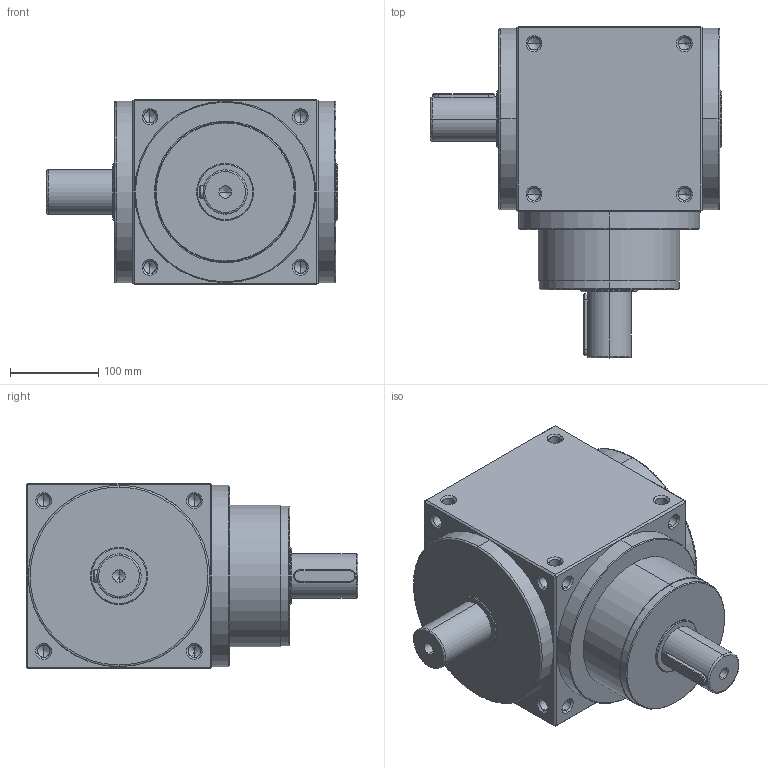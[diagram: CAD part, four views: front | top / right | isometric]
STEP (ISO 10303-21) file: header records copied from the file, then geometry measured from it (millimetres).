
FILE_DESCRIPTION (( 'STEP AP214' ), '1' );
FILE_NAME ('AT210-L-001.STEP', '2020-11-18T08:32:38', ( '微软用户' ), ( '微软中国' ), 'SwSTEP 2.0', 'SolidWorks 2014', '' );
FILE_SCHEMA (( 'AUTOMOTIVE_DESIGN' ));
Length unit declared in the file: millimetre
Products named in the file (2): AT210-L-001
Bounding box: 329 x 375 x 210 mm (x, y, z)
Volume: 12789026.2 mm3; surface area: 387625.4 mm2
Topology: 1 solids, 1 shells, 293 faces, 757 edges, 420 vertices
Faces by surface type: cylinder 124, cone 115, plane 46, bspline 8
Entity records: 11961 total; most frequent: CARTESIAN_POINT 2224, ORIENTED_EDGE 1410, DIRECTION 1333, EDGE_CURVE 705, AXIS2_PLACEMENT_3D 513, VERTEX_POINT 420, EDGE_LOOP 331, VECTOR 307
